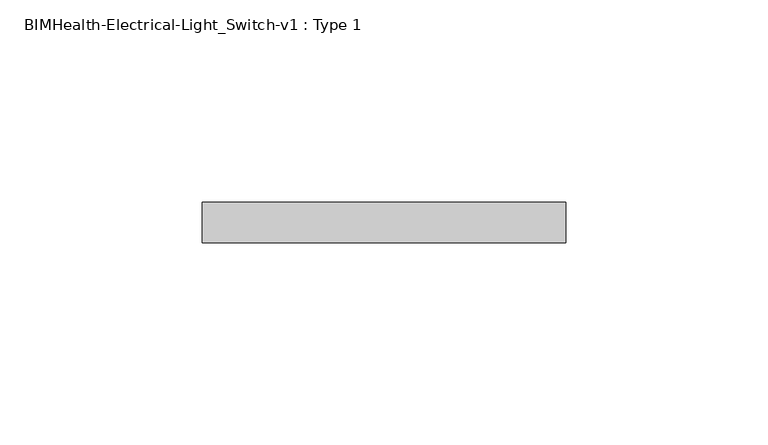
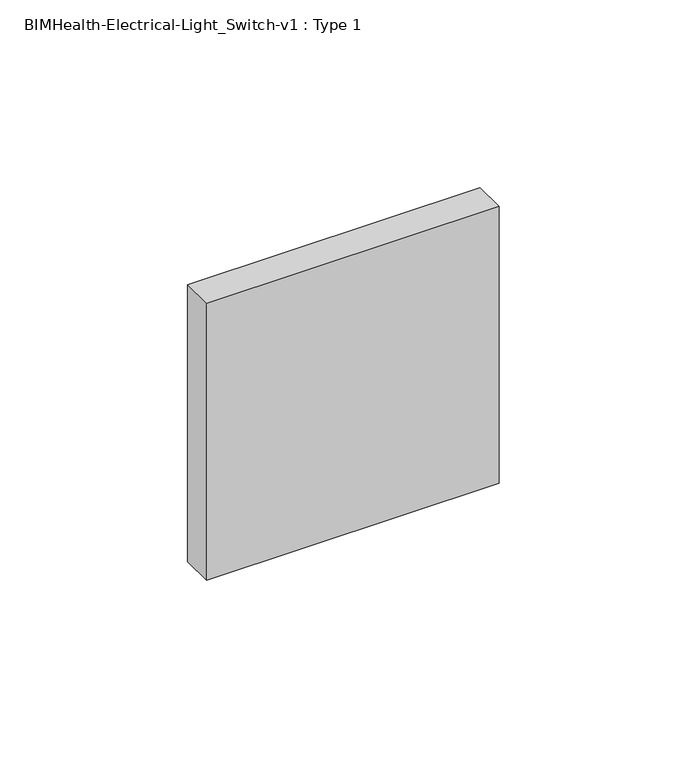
"""IFC4 building model written with IfcOpenShell, lengths in millimetres: proxy geometry, BIMHealth-Electrical-Light_Switch-v1 : Type 1."""

from ifc_helpers import new_model, si_unit, frame, origin, place, context, project, spatial, polyline, outline, extrude, source, transform, mapped, element, save


def bimhealth_electrical_light_switch_v1_type_1_b5e59f8a(model_context):
    return source(origin(), model_context, "Body", "SweptSolid", [
        extrude(outline(polyline([(125.0, 50.0), (125.0, 60.0), (215.0, 60.0), (215.0, 50.0), (125.0, 50.0)])), frame((0.0, 0.0, 1110.0), z_axis=(0.0, 0.0, 1.0), x_axis=(1.0, 0.0, 0.0)), (0.0, 0.0, 1.0), 90.0),
    ])


if __name__ == "__main__":
    model = new_model("IFC4")
    model_context = context("Model", 3, world=origin())
    ifc_project = project(units=[si_unit("LENGTHUNIT", "METRE", prefix="MILLI")], contexts=[model_context])
    site = spatial("IfcSite", under=ifc_project)
    building = spatial("IfcBuilding", under=site)
    placement = place(None, origin())
    bimhealth_electrical_light_switch_v1_type_1_shape = bimhealth_electrical_light_switch_v1_type_1_b5e59f8a(model_context)
    element("IfcBuildingElementProxy", 1, Name="BIMHealth-Electrical-Light_Switch-v1 : Type 1", ObjectType="BIMHealth-Electrical-Light_Switch-v1 : Type 1", at=placement, inside=building, context=model_context, shape_type="MappedRepresentation", body=[
        mapped(bimhealth_electrical_light_switch_v1_type_1_shape, transform((0.0, 0.0, 0.0), x_axis=(1.0, 0.0, 0.0), y_axis=(0.0, 1.0, 0.0), z_axis=(0.0, 0.0, 1.0))),
    ])
    save(model, "model.ifc")
